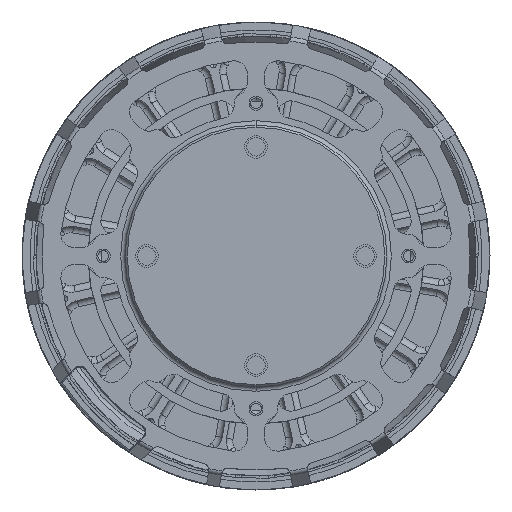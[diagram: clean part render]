
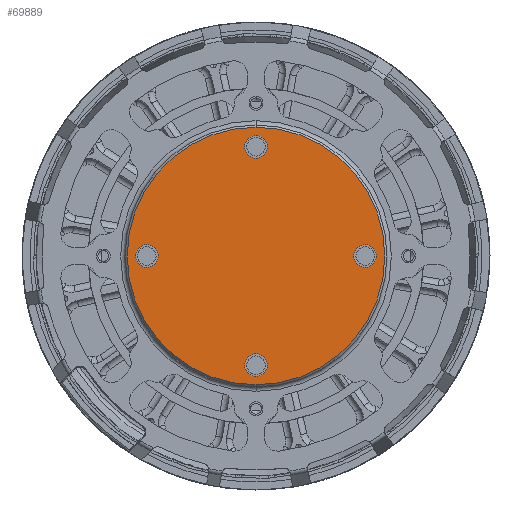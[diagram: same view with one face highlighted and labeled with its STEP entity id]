
A CAD part, left-side view. The second image highlights one B-rep face of the part: STEP entity #69889.
In plain terms, the highlighted planar face has unit normal (-1, 0, 0).
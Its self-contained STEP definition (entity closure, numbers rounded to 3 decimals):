
#249 = AXIS2_PLACEMENT_3D ( 'NONE', #44735, #64166, #62951 ) ;
#1681 = EDGE_CURVE ( 'NONE', #35042, #30638, #77998, .T. ) ;
#1989 = VERTEX_POINT ( 'NONE', #50172 ) ;
#2349 = EDGE_CURVE ( 'NONE', #61210, #13443, #58245, .T. ) ;
#2789 = AXIS2_PLACEMENT_3D ( 'NONE', #11750, #56991, #37063 ) ;
#5052 = CARTESIAN_POINT ( 'NONE',  ( -27.694, -41.236, 2.6 ) ) ;
#6102 = DIRECTION ( 'NONE',  ( 0., 0., 1. ) ) ;
#6260 = DIRECTION ( 'NONE',  ( 0., 0., -1. ) ) ;
#6518 = CARTESIAN_POINT ( 'NONE',  ( -27.694, 8.764, -2.6 ) ) ;
#7811 = CARTESIAN_POINT ( 'NONE',  ( -27.694, -16.236, -27.6 ) ) ;
#8008 = CARTESIAN_POINT ( 'NONE',  ( -27.694, -16.236, 22.4 ) ) ;
#8587 = CARTESIAN_POINT ( 'NONE',  ( -27.694, -41.236, 0. ) ) ;
#9259 = CARTESIAN_POINT ( 'NONE',  ( -27.694, 8.764, 0. ) ) ;
#9292 = VERTEX_POINT ( 'NONE', #41643 ) ;
#9812 = FACE_BOUND ( 'NONE', #53319, .T. ) ;
#10212 = CARTESIAN_POINT ( 'NONE',  ( -27.694, -16.236, 0. ) ) ;
#10294 = VERTEX_POINT ( 'NONE', #62533 ) ;
#11750 = CARTESIAN_POINT ( 'NONE',  ( -27.694, -16.236, 0. ) ) ;
#12248 = DIRECTION ( 'NONE',  ( -1., 0., 0. ) ) ;
#13443 = VERTEX_POINT ( 'NONE', #41525 ) ;
#17613 = EDGE_LOOP ( 'NONE', ( #24604, #56766 ) ) ;
#17834 = CIRCLE ( 'NONE', #28450, 2.6 ) ;
#19312 = EDGE_CURVE ( 'NONE', #1989, #69548, #31904, .T. ) ;
#19990 = CARTESIAN_POINT ( 'NONE',  ( -27.694, -16.236, -25. ) ) ;
#24382 = ORIENTED_EDGE ( 'NONE', *, *, #43786, .F. ) ;
#24604 = ORIENTED_EDGE ( 'NONE', *, *, #1681, .F. ) ;
#25275 = AXIS2_PLACEMENT_3D ( 'NONE', #8587, #33859, #78142 ) ;
#28166 = DIRECTION ( 'NONE',  ( -1., 0., 0. ) ) ;
#28450 = AXIS2_PLACEMENT_3D ( 'NONE', #60119, #28166, #72863 ) ;
#28539 = EDGE_CURVE ( 'NONE', #34188, #9292, #17834, .T. ) ;
#28679 = CIRCLE ( 'NONE', #43276, 2.6 ) ;
#28764 = ORIENTED_EDGE ( 'NONE', *, *, #32817, .F. ) ;
#30054 = PLANE ( 'NONE',  #62693 ) ;
#30638 = VERTEX_POINT ( 'NONE', #6518 ) ;
#31904 = CIRCLE ( 'NONE', #2789, 29.5 ) ;
#32817 = EDGE_CURVE ( 'NONE', #13443, #61210, #80916, .T. ) ;
#33033 = AXIS2_PLACEMENT_3D ( 'NONE', #9259, #48260, #47434 ) ;
#33689 = DIRECTION ( 'NONE',  ( -1., 0., 0. ) ) ;
#33859 = DIRECTION ( 'NONE',  ( -1., 0., 0. ) ) ;
#33999 = DIRECTION ( 'NONE',  ( -1., 0., 0. ) ) ;
#34188 = VERTEX_POINT ( 'NONE', #7811 ) ;
#35042 = VERTEX_POINT ( 'NONE', #47593 ) ;
#35505 = DIRECTION ( 'NONE',  ( -1., 0., 0. ) ) ;
#36375 = CARTESIAN_POINT ( 'NONE',  ( -27.694, -16.236, 25. ) ) ;
#37063 = DIRECTION ( 'NONE',  ( 0., 0., -1. ) ) ;
#37613 = ORIENTED_EDGE ( 'NONE', *, *, #19312, .T. ) ;
#40814 = EDGE_CURVE ( 'NONE', #30638, #35042, #67787, .T. ) ;
#41345 = FACE_BOUND ( 'NONE', #17613, .T. ) ;
#41525 = CARTESIAN_POINT ( 'NONE',  ( -27.694, -16.236, 27.6 ) ) ;
#41643 = CARTESIAN_POINT ( 'NONE',  ( -27.694, -16.236, -22.4 ) ) ;
#43276 = AXIS2_PLACEMENT_3D ( 'NONE', #62990, #76208, #6260 ) ;
#43786 = EDGE_CURVE ( 'NONE', #9292, #34188, #80142, .T. ) ;
#44735 = CARTESIAN_POINT ( 'NONE',  ( -27.694, -16.236, 25. ) ) ;
#45216 = AXIS2_PLACEMENT_3D ( 'NONE', #45656, #33999, #59294 ) ;
#45656 = CARTESIAN_POINT ( 'NONE',  ( -27.694, -16.236, 0. ) ) ;
#46020 = CARTESIAN_POINT ( 'NONE',  ( -27.694, -16.236, -29.5 ) ) ;
#47434 = DIRECTION ( 'NONE',  ( 0., 0., 1. ) ) ;
#47593 = CARTESIAN_POINT ( 'NONE',  ( -27.694, 8.764, 2.6 ) ) ;
#48260 = DIRECTION ( 'NONE',  ( -1., 0., 0. ) ) ;
#48310 = EDGE_LOOP ( 'NONE', ( #24382, #73709 ) ) ;
#50172 = CARTESIAN_POINT ( 'NONE',  ( -27.694, -16.236, 29.5 ) ) ;
#50505 = ORIENTED_EDGE ( 'NONE', *, *, #62357, .T. ) ;
#53319 = EDGE_LOOP ( 'NONE', ( #28764, #58166 ) ) ;
#54386 = ORIENTED_EDGE ( 'NONE', *, *, #54729, .F. ) ;
#54648 = FACE_BOUND ( 'NONE', #48310, .T. ) ;
#54729 = EDGE_CURVE ( 'NONE', #10294, #72490, #80803, .T. ) ;
#55051 = FACE_OUTER_BOUND ( 'NONE', #70636, .T. ) ;
#56441 = AXIS2_PLACEMENT_3D ( 'NONE', #19990, #33689, #58575 ) ;
#56766 = ORIENTED_EDGE ( 'NONE', *, *, #40814, .F. ) ;
#56991 = DIRECTION ( 'NONE',  ( -1., 0., 0. ) ) ;
#58166 = ORIENTED_EDGE ( 'NONE', *, *, #2349, .F. ) ;
#58245 = CIRCLE ( 'NONE', #60883, 2.6 ) ;
#58575 = DIRECTION ( 'NONE',  ( 0., 1., 0. ) ) ;
#59159 = EDGE_LOOP ( 'NONE', ( #73395, #54386 ) ) ;
#59294 = DIRECTION ( 'NONE',  ( 0., 0., -1. ) ) ;
#59340 = EDGE_CURVE ( 'NONE', #72490, #10294, #28679, .T. ) ;
#60119 = CARTESIAN_POINT ( 'NONE',  ( -27.694, -16.236, -25. ) ) ;
#60792 = DIRECTION ( 'NONE',  ( 0., -1., 0. ) ) ;
#60883 = AXIS2_PLACEMENT_3D ( 'NONE', #36375, #61639, #70687 ) ;
#61210 = VERTEX_POINT ( 'NONE', #8008 ) ;
#61639 = DIRECTION ( 'NONE',  ( -1., 0., 0. ) ) ;
#62357 = EDGE_CURVE ( 'NONE', #69548, #1989, #62394, .T. ) ;
#62394 = CIRCLE ( 'NONE', #45216, 29.5 ) ;
#62484 = AXIS2_PLACEMENT_3D ( 'NONE', #75225, #12248, #6102 ) ;
#62533 = CARTESIAN_POINT ( 'NONE',  ( -27.694, -41.236, -2.6 ) ) ;
#62693 = AXIS2_PLACEMENT_3D ( 'NONE', #10212, #35505, #60792 ) ;
#62951 = DIRECTION ( 'NONE',  ( 0., -1., 0. ) ) ;
#62990 = CARTESIAN_POINT ( 'NONE',  ( -27.694, -41.236, 0. ) ) ;
#64166 = DIRECTION ( 'NONE',  ( -1., 0., 0. ) ) ;
#66580 = FACE_BOUND ( 'NONE', #59159, .T. ) ;
#67787 = CIRCLE ( 'NONE', #62484, 2.6 ) ;
#69548 = VERTEX_POINT ( 'NONE', #46020 ) ;
#69889 = ADVANCED_FACE ( 'NONE', ( #41345, #54648, #66580, #9812, #55051 ), #30054, .T. ) ;
#70636 = EDGE_LOOP ( 'NONE', ( #50505, #37613 ) ) ;
#70687 = DIRECTION ( 'NONE',  ( 0., -1., 0. ) ) ;
#72490 = VERTEX_POINT ( 'NONE', #5052 ) ;
#72863 = DIRECTION ( 'NONE',  ( 0., 1., 0. ) ) ;
#73395 = ORIENTED_EDGE ( 'NONE', *, *, #59340, .F. ) ;
#73709 = ORIENTED_EDGE ( 'NONE', *, *, #28539, .F. ) ;
#75225 = CARTESIAN_POINT ( 'NONE',  ( -27.694, 8.764, 0. ) ) ;
#76208 = DIRECTION ( 'NONE',  ( -1., 0., 0. ) ) ;
#77998 = CIRCLE ( 'NONE', #33033, 2.6 ) ;
#78142 = DIRECTION ( 'NONE',  ( 0., 0., -1. ) ) ;
#80142 = CIRCLE ( 'NONE', #56441, 2.6 ) ;
#80803 = CIRCLE ( 'NONE', #25275, 2.6 ) ;
#80916 = CIRCLE ( 'NONE', #249, 2.6 ) ;
